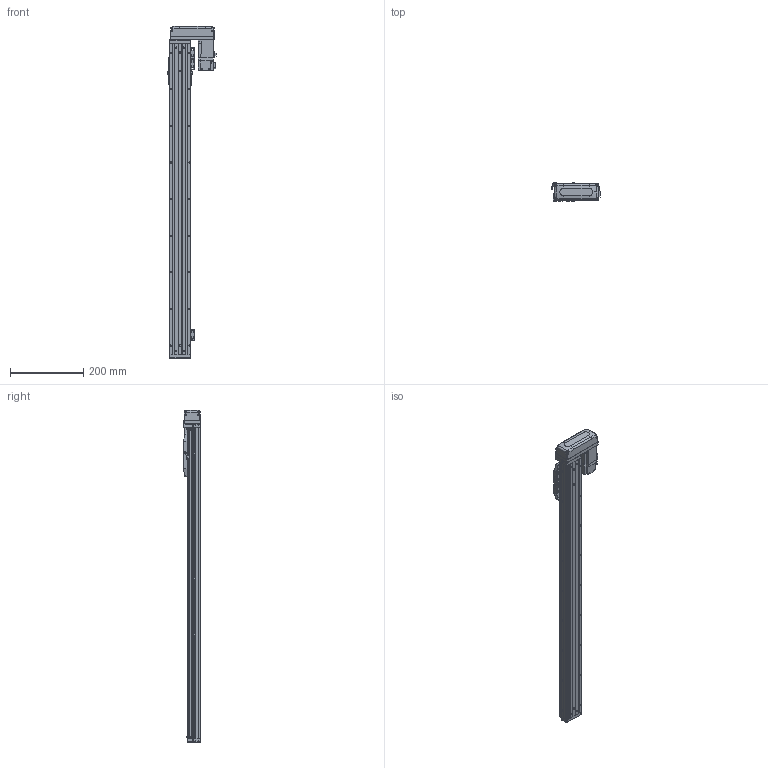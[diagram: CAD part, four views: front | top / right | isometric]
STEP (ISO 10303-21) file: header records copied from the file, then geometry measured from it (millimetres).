
FILE_DESCRIPTION (( 'STEP AP203' ), '1' );
FILE_NAME ('CTHA50-700-BL-M10-C4L.step', '2022-03-19T06:00:52', ( '微软用户' ), ( '微软中国' ), 'SwSTEP 2.0', 'SolidWorks 2020', '' );
FILE_SCHEMA (( 'CONFIG_CONTROL_DESIGN' ));
Length unit declared in the file: millimetre
Products named in the file (20): KTHA50-004; GBT 70.1-M4×12; GBT 70.3-M3℅6; KTHA50-005; CTHA60-016; CTHA50-015-2_CTHA60-015-2; GB¨uT 70.2-M3¡Á6_M3¡Á6; CTHA60-021; CTHA60-033; EE_SX911P_R; HG-KR13（三菱）; GBT 70.1-M3×15; GBT77-2000 M3×3; CTHA50-002; CTHA50-700-BL-M10-C4L; GBT 70.1-M3℅6; CTHA50-030; KTHA50-001_850; CTHA60-017; CTHA50-031
Assembly tree (60 placements, depth 2):
  CTHA50-700-BL-M10-C4L
    KTHA50-001_850
    KTHA50-004
    KTHA50-005
    GB¨uT 70.2-M3¡Á6_M3¡Á6  x10
    EE_SX911P_R  x3
    GBT77-2000 M3×3  x6
    GBT 70.1-M3℅6  x6
    CTHA60-017  x3
    GBT 70.1-M4×12  x10
    CTHA60-016  x2
    CTHA60-021  x2
    HG-KR13（三菱）
    CTHA50-002
    CTHA50-030  x2
    CTHA50-031
    GBT 70.3-M3℅6  x4
    CTHA50-015-2_CTHA60-015-2
    CTHA60-033
    GBT 70.1-M3×15  x4
Bounding box: 132.6 x 48 x 907 mm (x, y, z)
Volume: 1674311.2 mm3; surface area: 425405.9 mm2
Topology: 62 solids, 62 shells, 2573 faces, 6135 edges, 3762 vertices
Faces by surface type: plane 1458, cylinder 600, cone 357, torus 108, bspline 26, sphere 24
Entity records: 44623 total; most frequent: CARTESIAN_POINT 8219, DIRECTION 6975, ORIENTED_EDGE 6778, EDGE_CURVE 3389, LINE 2379, VECTOR 2379, AXIS2_PLACEMENT_3D 2298, VERTEX_POINT 2136
